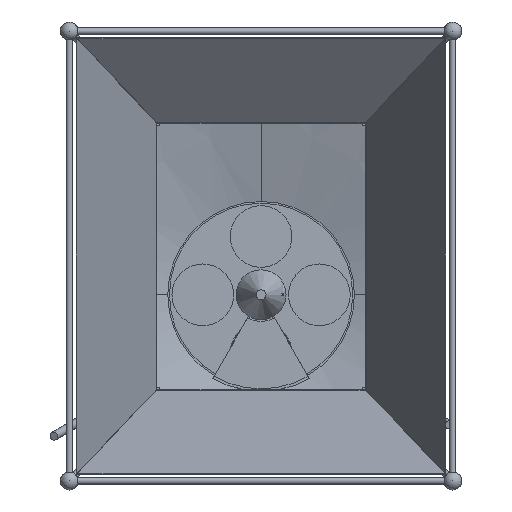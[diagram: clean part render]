
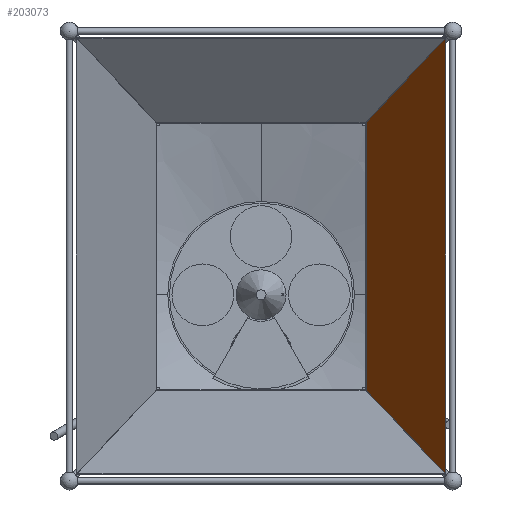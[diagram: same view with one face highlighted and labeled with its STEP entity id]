
A CAD part, top view. The second image highlights one B-rep face of the part: STEP entity #203073.
In plain terms, the highlighted free-form (B-spline) face has degree [1, 1] with [2, 2] control points.
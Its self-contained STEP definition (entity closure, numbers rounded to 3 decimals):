
#202498 = PLANE('',#202499);
#202499 = AXIS2_PLACEMENT_3D('',#202500,#202501,#202502);
#202500 = CARTESIAN_POINT('',(-126.,-161.,799.));
#202501 = DIRECTION('',(0.,0.,-1.));
#202502 = DIRECTION('',(0.616,0.788,0.));
#202553 = PLANE('',#202554);
#202554 = AXIS2_PLACEMENT_3D('',#202555,#202556,#202557);
#202555 = CARTESIAN_POINT('',(-222.,-262.,1045.));
#202556 = DIRECTION('',(0.,0.,-1.));
#202557 = DIRECTION('',(0.646,0.763,0.));
#202666 = VERTEX_POINT('',#202667);
#202667 = CARTESIAN_POINT('',(125.004,-160.004,799.));
#202681 = B_SPLINE_SURFACE_WITH_KNOTS('',1,1,(
    (#202682,#202683)
    ,(#202684,#202685
  )),.UNSPECIFIED.,.F.,.F.,.F.,(2,2),(2,2),(0.,442.),(0.,1.),
  .PIECEWISE_BEZIER_KNOTS.);
#202682 = CARTESIAN_POINT('',(-125.,-160.,798.99));
#202683 = CARTESIAN_POINT('',(-221.,-261.,1045.01));
#202684 = CARTESIAN_POINT('',(125.,-160.,798.99));
#202685 = CARTESIAN_POINT('',(221.,-261.,1045.01));
#202692 = EDGE_CURVE('',#202693,#202666,#202695,.T.);
#202693 = VERTEX_POINT('',#202694);
#202694 = CARTESIAN_POINT('',(125.004,160.004,799.));
#202695 = SURFACE_CURVE('',#202696,(#202699,#202705),.PCURVE_S1.);
#202696 = B_SPLINE_CURVE_WITH_KNOTS('',1,(#202697,#202698),
  .UNSPECIFIED.,.F.,.F.,(2,2),(0.,1.),.PIECEWISE_BEZIER_KNOTS.);
#202697 = CARTESIAN_POINT('',(125.004,160.004,799.));
#202698 = CARTESIAN_POINT('',(125.004,-160.004,799.));
#202699 = PCURVE('',#202498,#202700);
#202700 = DEFINITIONAL_REPRESENTATION('',(#202701),#202704);
#202701 = B_SPLINE_CURVE_WITH_KNOTS('',1,(#202702,#202703),
  .UNSPECIFIED.,.F.,.F.,(2,2),(0.,1.),.PIECEWISE_BEZIER_KNOTS.);
#202702 = CARTESIAN_POINT('',(407.488,-0.171));
#202703 = CARTESIAN_POINT('',(155.48,197.053));
#202704 = ( GEOMETRIC_REPRESENTATION_CONTEXT(2) 
PARAMETRIC_REPRESENTATION_CONTEXT() REPRESENTATION_CONTEXT('2D SPACE',''
  ) );
#202705 = PCURVE('',#202706,#202711);
#202706 = B_SPLINE_SURFACE_WITH_KNOTS('',1,1,(
    (#202707,#202708)
    ,(#202709,#202710
  )),.UNSPECIFIED.,.F.,.F.,.F.,(2,2),(2,2),(0.,522.),(0.,1.),
  .PIECEWISE_BEZIER_KNOTS.);
#202707 = CARTESIAN_POINT('',(125.,-160.,798.99));
#202708 = CARTESIAN_POINT('',(221.,-261.,1045.01));
#202709 = CARTESIAN_POINT('',(125.,160.,798.99));
#202710 = CARTESIAN_POINT('',(221.,261.,1045.01));
#202711 = DEFINITIONAL_REPRESENTATION('',(#202712),#202715);
#202712 = B_SPLINE_CURVE_WITH_KNOTS('',1,(#202713,#202714),
  .UNSPECIFIED.,.F.,.F.,(2,2),(0.,1.),.PIECEWISE_BEZIER_KNOTS.);
#202713 = CARTESIAN_POINT('',(522.,0.));
#202714 = CARTESIAN_POINT('',(0.,0.));
#202715 = ( GEOMETRIC_REPRESENTATION_CONTEXT(2) 
PARAMETRIC_REPRESENTATION_CONTEXT() REPRESENTATION_CONTEXT('2D SPACE',''
  ) );
#202731 = B_SPLINE_SURFACE_WITH_KNOTS('',1,1,(
    (#202732,#202733)
    ,(#202734,#202735
  )),.UNSPECIFIED.,.F.,.F.,.F.,(2,2),(2,2),(0.,442.),(0.,1.),
  .PIECEWISE_BEZIER_KNOTS.);
#202732 = CARTESIAN_POINT('',(125.,160.,798.99));
#202733 = CARTESIAN_POINT('',(221.,261.,1045.01));
#202734 = CARTESIAN_POINT('',(-125.,160.,798.99));
#202735 = CARTESIAN_POINT('',(-221.,261.,1045.01));
#202865 = VERTEX_POINT('',#202866);
#202866 = CARTESIAN_POINT('',(220.996,-260.996,1045.)
  );
#202886 = EDGE_CURVE('',#202887,#202865,#202889,.T.);
#202887 = VERTEX_POINT('',#202888);
#202888 = CARTESIAN_POINT('',(220.996,260.996,1045.)
  );
#202889 = SURFACE_CURVE('',#202890,(#202893,#202899),.PCURVE_S1.);
#202890 = B_SPLINE_CURVE_WITH_KNOTS('',1,(#202891,#202892),
  .UNSPECIFIED.,.F.,.F.,(2,2),(0.,1.),.PIECEWISE_BEZIER_KNOTS.);
#202891 = CARTESIAN_POINT('',(220.996,260.996,1045.)
  );
#202892 = CARTESIAN_POINT('',(220.996,-260.996,1045.)
  );
#202893 = PCURVE('',#202553,#202894);
#202894 = DEFINITIONAL_REPRESENTATION('',(#202895),#202898);
#202895 = B_SPLINE_CURVE_WITH_KNOTS('',1,(#202896,#202897),
  .UNSPECIFIED.,.F.,.F.,(2,2),(0.,1.),.PIECEWISE_BEZIER_KNOTS.);
#202896 = CARTESIAN_POINT('',(685.398,-0.117));
#202897 = CARTESIAN_POINT('',(287.147,337.332));
#202898 = ( GEOMETRIC_REPRESENTATION_CONTEXT(2) 
PARAMETRIC_REPRESENTATION_CONTEXT() REPRESENTATION_CONTEXT('2D SPACE',''
  ) );
#202899 = PCURVE('',#202706,#202900);
#202900 = DEFINITIONAL_REPRESENTATION('',(#202901),#202904);
#202901 = B_SPLINE_CURVE_WITH_KNOTS('',1,(#202902,#202903),
  .UNSPECIFIED.,.F.,.F.,(2,2),(0.,1.),.PIECEWISE_BEZIER_KNOTS.);
#202902 = CARTESIAN_POINT('',(522.,1.));
#202903 = CARTESIAN_POINT('',(0.,1.));
#202904 = ( GEOMETRIC_REPRESENTATION_CONTEXT(2) 
PARAMETRIC_REPRESENTATION_CONTEXT() REPRESENTATION_CONTEXT('2D SPACE',''
  ) );
#203001 = EDGE_CURVE('',#202666,#202865,#203002,.T.);
#203002 = SURFACE_CURVE('',#203003,(#203006,#203013),.PCURVE_S1.);
#203003 = B_SPLINE_CURVE_WITH_KNOTS('',1,(#203004,#203005),
  .UNSPECIFIED.,.F.,.F.,(2,2),(0.,1.),.PIECEWISE_BEZIER_KNOTS.);
#203004 = CARTESIAN_POINT('',(125.,-160.,798.99));
#203005 = CARTESIAN_POINT('',(221.,-261.,1045.01));
#203006 = PCURVE('',#202681,#203007);
#203007 = DEFINITIONAL_REPRESENTATION('',(#203008),#203012);
#203008 = LINE('',#203009,#203010);
#203009 = CARTESIAN_POINT('',(442.,0.));
#203010 = VECTOR('',#203011,1.);
#203011 = DIRECTION('',(0.,1.));
#203012 = ( GEOMETRIC_REPRESENTATION_CONTEXT(2) 
PARAMETRIC_REPRESENTATION_CONTEXT() REPRESENTATION_CONTEXT('2D SPACE',''
  ) );
#203013 = PCURVE('',#202706,#203014);
#203014 = DEFINITIONAL_REPRESENTATION('',(#203015),#203019);
#203015 = LINE('',#203016,#203017);
#203016 = CARTESIAN_POINT('',(0.,0.));
#203017 = VECTOR('',#203018,1.);
#203018 = DIRECTION('',(0.,1.));
#203019 = ( GEOMETRIC_REPRESENTATION_CONTEXT(2) 
PARAMETRIC_REPRESENTATION_CONTEXT() REPRESENTATION_CONTEXT('2D SPACE',''
  ) );
#203051 = EDGE_CURVE('',#202693,#202887,#203052,.T.);
#203052 = SURFACE_CURVE('',#203053,(#203056,#203063),.PCURVE_S1.);
#203053 = B_SPLINE_CURVE_WITH_KNOTS('',1,(#203054,#203055),
  .UNSPECIFIED.,.F.,.F.,(2,2),(0.,1.),.PIECEWISE_BEZIER_KNOTS.);
#203054 = CARTESIAN_POINT('',(125.,160.,798.99));
#203055 = CARTESIAN_POINT('',(221.,261.,1045.01));
#203056 = PCURVE('',#202731,#203057);
#203057 = DEFINITIONAL_REPRESENTATION('',(#203058),#203062);
#203058 = LINE('',#203059,#203060);
#203059 = CARTESIAN_POINT('',(0.,0.));
#203060 = VECTOR('',#203061,1.);
#203061 = DIRECTION('',(0.,1.));
#203062 = ( GEOMETRIC_REPRESENTATION_CONTEXT(2) 
PARAMETRIC_REPRESENTATION_CONTEXT() REPRESENTATION_CONTEXT('2D SPACE',''
  ) );
#203063 = PCURVE('',#202706,#203064);
#203064 = DEFINITIONAL_REPRESENTATION('',(#203065),#203069);
#203065 = LINE('',#203066,#203067);
#203066 = CARTESIAN_POINT('',(522.,0.));
#203067 = VECTOR('',#203068,1.);
#203068 = DIRECTION('',(0.,1.));
#203069 = ( GEOMETRIC_REPRESENTATION_CONTEXT(2) 
PARAMETRIC_REPRESENTATION_CONTEXT() REPRESENTATION_CONTEXT('2D SPACE',''
  ) );
#203073 = ADVANCED_FACE('',(#203074),#202706,.F.);
#203074 = FACE_BOUND('',#203075,.F.);
#203075 = EDGE_LOOP('',(#203076,#203077,#203078,#203079));
#203076 = ORIENTED_EDGE('',*,*,#203001,.F.);
#203077 = ORIENTED_EDGE('',*,*,#202692,.F.);
#203078 = ORIENTED_EDGE('',*,*,#203051,.T.);
#203079 = ORIENTED_EDGE('',*,*,#202886,.T.);
